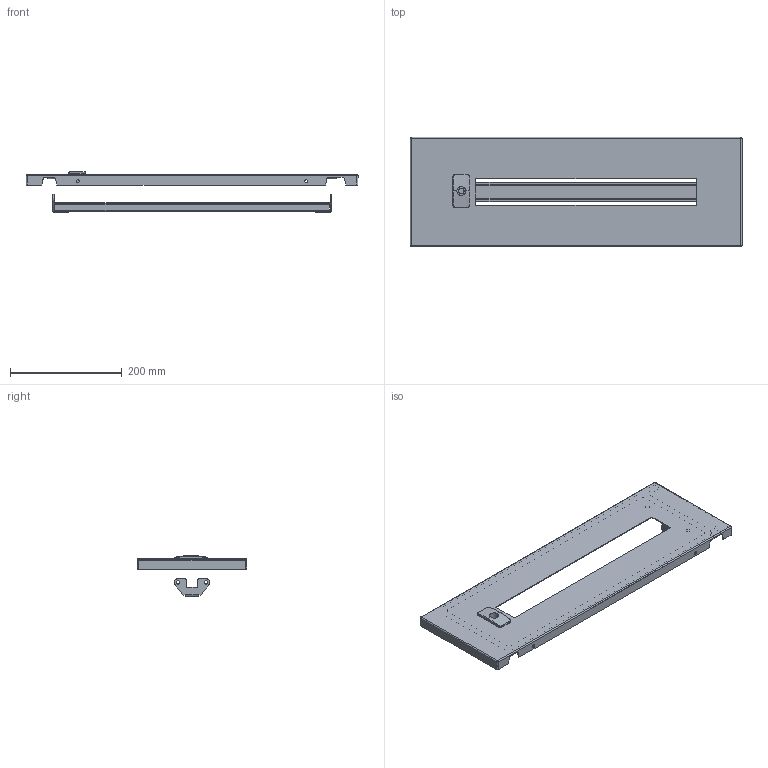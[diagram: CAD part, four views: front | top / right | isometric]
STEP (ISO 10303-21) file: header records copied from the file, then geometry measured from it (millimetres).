
FILE_DESCRIPTION (( 'STEP AP203' ), '1' );
FILE_NAME ('EUPD060020M.STEP', '2015-04-22T13:01:20', ( 'Admin' ), ( '' ), 'SwSTEP 2.0', 'SolidWorks 2014', '' );
FILE_SCHEMA (( 'CONFIG_CONTROL_DESIGN' ));
Length unit declared in the file: millimetre
Products named in the file (4): AR_Porte cieche_EUPD_Enux_0600x0200_M; chiusura_pm_modificato; AR_profilo DIN_DIN_0600; EUPD060020M
Assembly tree (3 placements, depth 2):
  EUPD060020M
    AR_Porte cieche_EUPD_Enux_0600x0200_M
    chiusura_pm_modificato
    AR_profilo DIN_DIN_0600
Bounding box: 595 x 196 x 72.95 mm (x, y, z)
Volume: 343504.2 mm3; surface area: 392614.6 mm2
Topology: 4 solids, 4 shells, 325 faces, 874 edges, 559 vertices
Faces by surface type: plane 156, cylinder 145, sphere 8, cone 6, torus 6, bspline 4
Entity records: 11022 total; most frequent: CARTESIAN_POINT 2197, DIRECTION 1830, ORIENTED_EDGE 1732, EDGE_CURVE 866, AXIS2_PLACEMENT_3D 650, VERTEX_POINT 559, VECTOR 530, LINE 530
